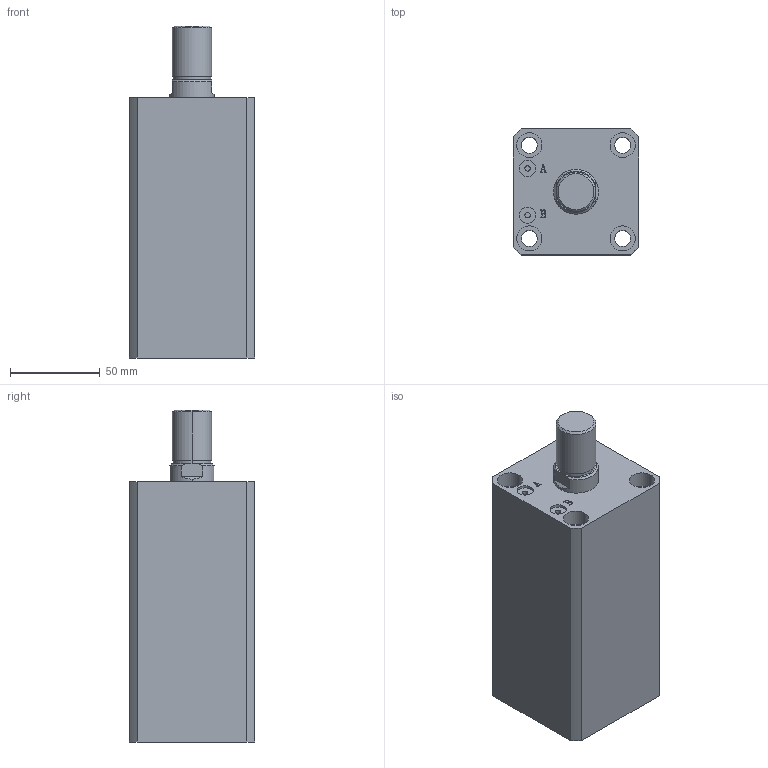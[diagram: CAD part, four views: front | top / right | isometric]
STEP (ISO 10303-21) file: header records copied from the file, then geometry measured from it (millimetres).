
FILE_DESCRIPTION (( 'STEP AP203' ), '1' );
FILE_NAME ('HTB-SDMA40-90W.STEP', '2019-10-07T11:58:31', ( '微软用户' ), ( '微软中国' ), 'SwSTEP 2.0', 'SolidWorks 2012', '' );
FILE_SCHEMA (( 'CONFIG_CONTROL_DESIGN' ));
Length unit declared in the file: millimetre
Products named in the file (3): HTB-SDMA40-90W; HTB-SDMA40-90W活塞杆; HTB-SDMA40-90掛极
Assembly tree (2 placements, depth 2):
  HTB-SDMA40-90W
    HTB-SDMA40-90掛极
    HTB-SDMA40-90W活塞杆
Bounding box: 70 x 70 x 185 mm (x, y, z)
Volume: 608383.4 mm3; surface area: 100264.3 mm2
Topology: 2 solids, 2 shells, 141 faces, 337 edges, 222 vertices
Faces by surface type: plane 67, cylinder 48, bspline 16, torus 6, cone 4
Entity records: 5180 total; most frequent: CARTESIAN_POINT 1597, ORIENTED_EDGE 674, DIRECTION 669, EDGE_CURVE 337, AXIS2_PLACEMENT_3D 242, VERTEX_POINT 222, VECTOR 185, LINE 185
